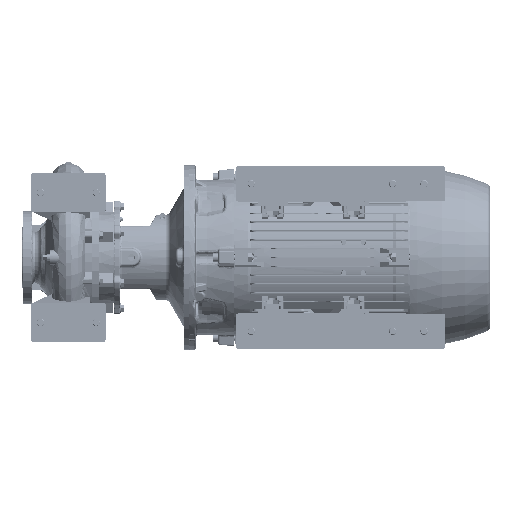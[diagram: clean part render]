
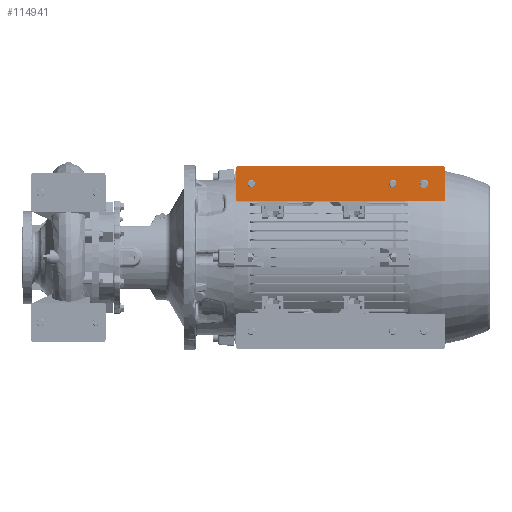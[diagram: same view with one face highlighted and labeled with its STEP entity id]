
A CAD part, front view. The second image highlights one B-rep face of the part: STEP entity #114941.
In plain terms, the highlighted planar face has unit normal (0, -1, 0).
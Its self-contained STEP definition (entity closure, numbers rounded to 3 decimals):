
#1178 = DIRECTION ( 'NONE',  ( 1., 0., 0. ) ) ;
#1236 = EDGE_CURVE ( 'NONE', #265100, #123956, #18142, .T. ) ;
#2474 = CARTESIAN_POINT ( 'NONE',  ( 75., 0., -447. ) ) ;
#3216 = CIRCLE ( 'NONE', #187620, 8. ) ;
#4499 = CARTESIAN_POINT ( 'NONE',  ( 3., 0., -3. ) ) ;
#6112 = CARTESIAN_POINT ( 'NONE',  ( 37.5, 0., -396. ) ) ;
#6255 = CARTESIAN_POINT ( 'NONE',  ( 72., 0., -3. ) ) ;
#11786 = DIRECTION ( 'NONE',  ( 0., 0., -1. ) ) ;
#12576 = CIRCLE ( 'NONE', #170039, 3. ) ;
#13019 = CIRCLE ( 'NONE', #157044, 3. ) ;
#13490 = CARTESIAN_POINT ( 'NONE',  ( 37.5, 0., -337.5 ) ) ;
#17388 = EDGE_LOOP ( 'NONE', ( #90238, #36558 ) ) ;
#18142 = LINE ( 'NONE', #236478, #249247 ) ;
#28634 = EDGE_LOOP ( 'NONE', ( #176091, #151160, #251099, #171080, #162159, #178799, #46533, #42990 ) ) ;
#32152 = EDGE_CURVE ( 'NONE', #63586, #235172, #228996, .T. ) ;
#35503 = LINE ( 'NONE', #134630, #265292 ) ;
#36558 = ORIENTED_EDGE ( 'NONE', *, *, #174852, .T. ) ;
#37520 = VERTEX_POINT ( 'NONE', #6112 ) ;
#39628 = VERTEX_POINT ( 'NONE', #193381 ) ;
#41553 = DIRECTION ( 'NONE',  ( 0., 1., 0. ) ) ;
#41637 = CARTESIAN_POINT ( 'NONE',  ( 0., 0., -450. ) ) ;
#42990 = ORIENTED_EDGE ( 'NONE', *, *, #147696, .T. ) ;
#46032 = CARTESIAN_POINT ( 'NONE',  ( 37.5, 0., -345.5 ) ) ;
#46533 = ORIENTED_EDGE ( 'NONE', *, *, #266560, .T. ) ;
#47205 = ORIENTED_EDGE ( 'NONE', *, *, #173879, .T. ) ;
#56346 = LINE ( 'NONE', #102805, #239032 ) ;
#57108 = AXIS2_PLACEMENT_3D ( 'NONE', #6255, #158405, #242953 ) ;
#62763 = DIRECTION ( 'NONE',  ( 0., 0., 1. ) ) ;
#63586 = VERTEX_POINT ( 'NONE', #254153 ) ;
#63775 = DIRECTION ( 'NONE',  ( 0., 0., -1. ) ) ;
#65611 = DIRECTION ( 'NONE',  ( 0., 0., -1. ) ) ;
#65903 = ORIENTED_EDGE ( 'NONE', *, *, #198716, .T. ) ;
#66542 = EDGE_CURVE ( 'NONE', #186418, #223240, #13019, .T. ) ;
#68135 = EDGE_CURVE ( 'NONE', #265100, #99662, #211565, .T. ) ;
#69500 = DIRECTION ( 'NONE',  ( 0., 1., 0. ) ) ;
#81015 = CIRCLE ( 'NONE', #207149, 8. ) ;
#88203 = CARTESIAN_POINT ( 'NONE',  ( 72., 0., -447. ) ) ;
#89885 = CIRCLE ( 'NONE', #161885, 8. ) ;
#90238 = ORIENTED_EDGE ( 'NONE', *, *, #32152, .T. ) ;
#90442 = EDGE_CURVE ( 'NONE', #150569, #182520, #3216, .T. ) ;
#97676 = CARTESIAN_POINT ( 'NONE',  ( 3., 0., -447. ) ) ;
#97935 = CARTESIAN_POINT ( 'NONE',  ( 37.5, 0., -405. ) ) ;
#99662 = VERTEX_POINT ( 'NONE', #150930 ) ;
#102805 = CARTESIAN_POINT ( 'NONE',  ( 75., 0., -450. ) ) ;
#106320 = DIRECTION ( 'NONE',  ( 0., 0., -1. ) ) ;
#107039 = VERTEX_POINT ( 'NONE', #245808 ) ;
#109036 = CIRCLE ( 'NONE', #140406, 9. ) ;
#111868 = PLANE ( 'NONE',  #114255 ) ;
#114255 = AXIS2_PLACEMENT_3D ( 'NONE', #180847, #218995, #221766 ) ;
#114941 = ADVANCED_FACE ( 'NONE', ( #178059, #265346, #245624, #158325 ), #111868, .T. ) ;
#123697 = CARTESIAN_POINT ( 'NONE',  ( 37.5, 0., -414. ) ) ;
#123956 = VERTEX_POINT ( 'NONE', #146315 ) ;
#133259 = DIRECTION ( 'NONE',  ( 0., 0., -1. ) ) ;
#134375 = CARTESIAN_POINT ( 'NONE',  ( 0., 0., -447. ) ) ;
#134630 = CARTESIAN_POINT ( 'NONE',  ( 0., 0., -450. ) ) ;
#140406 = AXIS2_PLACEMENT_3D ( 'NONE', #97935, #181151, #226220 ) ;
#144513 = CARTESIAN_POINT ( 'NONE',  ( 37.5, 0., -40.5 ) ) ;
#144989 = DIRECTION ( 'NONE',  ( 0., 1., 0. ) ) ;
#146315 = CARTESIAN_POINT ( 'NONE',  ( 72., 0., 0. ) ) ;
#147696 = EDGE_CURVE ( 'NONE', #39628, #123956, #259471, .T. ) ;
#147776 = DIRECTION ( 'NONE',  ( 0., 0., -1. ) ) ;
#149688 = DIRECTION ( 'NONE',  ( 0., -1., 0. ) ) ;
#150569 = VERTEX_POINT ( 'NONE', #251336 ) ;
#150930 = CARTESIAN_POINT ( 'NONE',  ( 0., 0., -3. ) ) ;
#151160 = ORIENTED_EDGE ( 'NONE', *, *, #68135, .T. ) ;
#153023 = DIRECTION ( 'NONE',  ( 0., -1., 0. ) ) ;
#157044 = AXIS2_PLACEMENT_3D ( 'NONE', #88203, #153023, #133259 ) ;
#158325 = FACE_OUTER_BOUND ( 'NONE', #28634, .T. ) ;
#158405 = DIRECTION ( 'NONE',  ( 0., -1., 0. ) ) ;
#161885 = AXIS2_PLACEMENT_3D ( 'NONE', #253433, #144989, #147776 ) ;
#162159 = ORIENTED_EDGE ( 'NONE', *, *, #277651, .T. ) ;
#168553 = CIRCLE ( 'NONE', #204559, 9. ) ;
#169572 = EDGE_LOOP ( 'NONE', ( #65903, #256784 ) ) ;
#170039 = AXIS2_PLACEMENT_3D ( 'NONE', #97676, #204815, #11786 ) ;
#171080 = ORIENTED_EDGE ( 'NONE', *, *, #184249, .T. ) ;
#173879 = EDGE_CURVE ( 'NONE', #182520, #150569, #89885, .T. ) ;
#174852 = EDGE_CURVE ( 'NONE', #235172, #63586, #81015, .T. ) ;
#176091 = ORIENTED_EDGE ( 'NONE', *, *, #1236, .F. ) ;
#178059 = FACE_BOUND ( 'NONE', #17388, .T. ) ;
#178799 = ORIENTED_EDGE ( 'NONE', *, *, #66542, .T. ) ;
#179100 = EDGE_CURVE ( 'NONE', #232956, #99662, #192388, .T. ) ;
#180847 = CARTESIAN_POINT ( 'NONE',  ( 0., 0., -450. ) ) ;
#181151 = DIRECTION ( 'NONE',  ( 0., 1., 0. ) ) ;
#181835 = EDGE_LOOP ( 'NONE', ( #191523, #47205 ) ) ;
#182520 = VERTEX_POINT ( 'NONE', #46032 ) ;
#184249 = EDGE_CURVE ( 'NONE', #232956, #107039, #12576, .T. ) ;
#185174 = VECTOR ( 'NONE', #62763, 1000. ) ;
#186418 = VERTEX_POINT ( 'NONE', #223091 ) ;
#187359 = DIRECTION ( 'NONE',  ( 0., 0., 1. ) ) ;
#187620 = AXIS2_PLACEMENT_3D ( 'NONE', #13490, #251520, #245997 ) ;
#187638 = DIRECTION ( 'NONE',  ( 1., 0., 0. ) ) ;
#191523 = ORIENTED_EDGE ( 'NONE', *, *, #90442, .T. ) ;
#192388 = LINE ( 'NONE', #41637, #185174 ) ;
#192456 = DIRECTION ( 'NONE',  ( 0., 1., 0. ) ) ;
#193381 = CARTESIAN_POINT ( 'NONE',  ( 75., 0., -3. ) ) ;
#193515 = EDGE_CURVE ( 'NONE', #270545, #37520, #109036, .T. ) ;
#193727 = CARTESIAN_POINT ( 'NONE',  ( 3., 0., 0. ) ) ;
#195097 = CARTESIAN_POINT ( 'NONE',  ( 37.5, 0., -32.5 ) ) ;
#198716 = EDGE_CURVE ( 'NONE', #37520, #270545, #168553, .T. ) ;
#204559 = AXIS2_PLACEMENT_3D ( 'NONE', #233370, #192456, #65611 ) ;
#204815 = DIRECTION ( 'NONE',  ( 0., -1., 0. ) ) ;
#207149 = AXIS2_PLACEMENT_3D ( 'NONE', #262486, #69500, #220288 ) ;
#211565 = CIRCLE ( 'NONE', #242924, 3. ) ;
#218995 = DIRECTION ( 'NONE',  ( 0., -1., 0. ) ) ;
#220288 = DIRECTION ( 'NONE',  ( 0., 0., -1. ) ) ;
#221766 = DIRECTION ( 'NONE',  ( 0., 0., -1. ) ) ;
#223091 = CARTESIAN_POINT ( 'NONE',  ( 72., 0., -450. ) ) ;
#223240 = VERTEX_POINT ( 'NONE', #2474 ) ;
#226220 = DIRECTION ( 'NONE',  ( 0., 0., -1. ) ) ;
#228996 = CIRCLE ( 'NONE', #246853, 8. ) ;
#232956 = VERTEX_POINT ( 'NONE', #134375 ) ;
#233370 = CARTESIAN_POINT ( 'NONE',  ( 37.5, 0., -405. ) ) ;
#235172 = VERTEX_POINT ( 'NONE', #144513 ) ;
#236478 = CARTESIAN_POINT ( 'NONE',  ( 0., 0., 0. ) ) ;
#239032 = VECTOR ( 'NONE', #187359, 1000. ) ;
#242924 = AXIS2_PLACEMENT_3D ( 'NONE', #4499, #149688, #63775 ) ;
#242953 = DIRECTION ( 'NONE',  ( 0., 0., -1. ) ) ;
#245624 = FACE_BOUND ( 'NONE', #169572, .T. ) ;
#245808 = CARTESIAN_POINT ( 'NONE',  ( 3., 0., -450. ) ) ;
#245997 = DIRECTION ( 'NONE',  ( 0., 0., -1. ) ) ;
#246853 = AXIS2_PLACEMENT_3D ( 'NONE', #195097, #41553, #106320 ) ;
#249247 = VECTOR ( 'NONE', #1178, 1000. ) ;
#251099 = ORIENTED_EDGE ( 'NONE', *, *, #179100, .F. ) ;
#251336 = CARTESIAN_POINT ( 'NONE',  ( 37.5, 0., -329.5 ) ) ;
#251520 = DIRECTION ( 'NONE',  ( 0., 1., 0. ) ) ;
#253433 = CARTESIAN_POINT ( 'NONE',  ( 37.5, 0., -337.5 ) ) ;
#254153 = CARTESIAN_POINT ( 'NONE',  ( 37.5, 0., -24.5 ) ) ;
#256784 = ORIENTED_EDGE ( 'NONE', *, *, #193515, .T. ) ;
#259471 = CIRCLE ( 'NONE', #57108, 3. ) ;
#262486 = CARTESIAN_POINT ( 'NONE',  ( 37.5, 0., -32.5 ) ) ;
#265100 = VERTEX_POINT ( 'NONE', #193727 ) ;
#265292 = VECTOR ( 'NONE', #187638, 1000. ) ;
#265346 = FACE_BOUND ( 'NONE', #181835, .T. ) ;
#266560 = EDGE_CURVE ( 'NONE', #223240, #39628, #56346, .T. ) ;
#270545 = VERTEX_POINT ( 'NONE', #123697 ) ;
#277651 = EDGE_CURVE ( 'NONE', #107039, #186418, #35503, .T. ) ;
